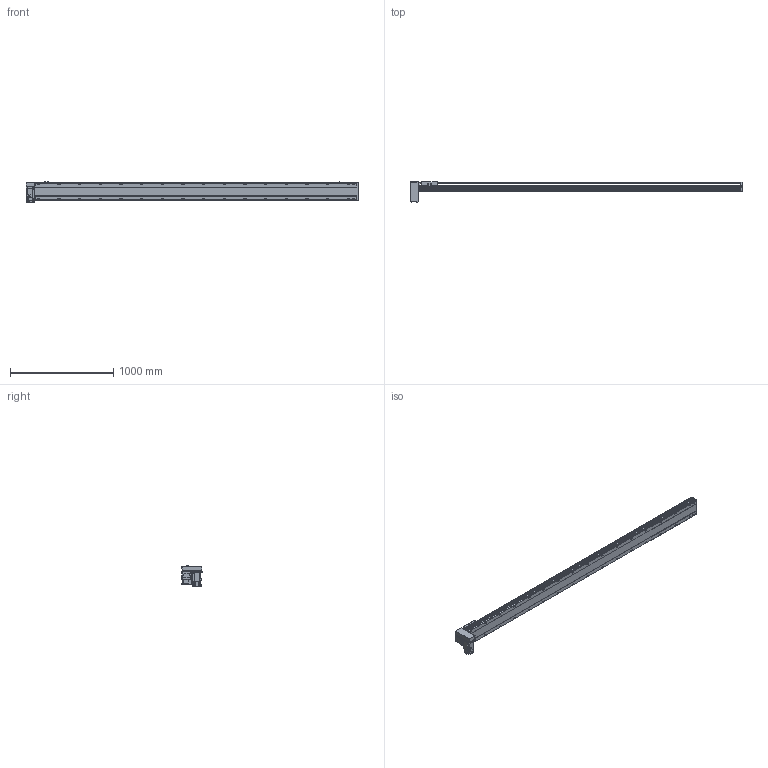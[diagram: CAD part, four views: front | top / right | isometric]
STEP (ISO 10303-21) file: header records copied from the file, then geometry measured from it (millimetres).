
FILE_DESCRIPTION( ( 'STEP AP214' ), '1' );
FILE_NAME( 'x:/temp/worker_5/temp/exporttempdir_3988_51_LlBEn/format_0/PBS170-P40-S2850-RD-T75-C1-N(0).stp', '2022-06-08T05:38:20', ( 'License CC BY-ND 4.0' ), ( 'CADENAS' ), ' ', 'PARTsolutions', ' ' );
FILE_SCHEMA( ( 'AUTOMOTIVE_DESIGN { 1 0 10303 214 1 1 1 1 }' ) );
Length unit declared in the file: millimetre
Products named in the file (7): PBS170-P40-S2850-RD-T75-C1-N(0); _PBS170-S2850()_body; _PBS170T-RD_motors; _T75-p1; _PBS170_sliser; _PBS170_plant; _PBS170_sensor
Assembly tree (8 placements, depth 2):
  PBS170-P40-S2850-RD-T75-C1-N(0)
    _PBS170-S2850()_body
    _PBS170T-RD_motors
    _T75-p1
    _PBS170_sliser
    _PBS170_plant
    _PBS170_sensor  x3
Bounding box: 3213 x 201 x 205.3 mm (x, y, z)
Volume: 24169487 mm3; surface area: 3031626.1 mm2
Topology: 8 solids, 8 shells, 1226 faces, 3235 edges, 2108 vertices
Faces by surface type: plane 741, cylinder 411, cone 64, sphere 8, torus 2
Full cylindrical faces by diameter (mm): 3.242 x4, 4 x2, 4.4 x4, 4.5 x6, 4.917 x4, 6 x9, 6.647 x42, 7 x2, 7.5 x4, 8 x8, 8.5 x34, 10 x4, 10.5 x34, 11 x2, 30 x2, 40 x1, 70 x1
Entity records: 45518 total; most frequent: CARTESIAN_POINT 7733, DIRECTION 5930, ORIENTED_EDGE 5568, EDGE_CURVE 2784, AXIS2_PLACEMENT_3D 2107, VERTEX_POINT 1946, LINE 1716, VECTOR 1716
